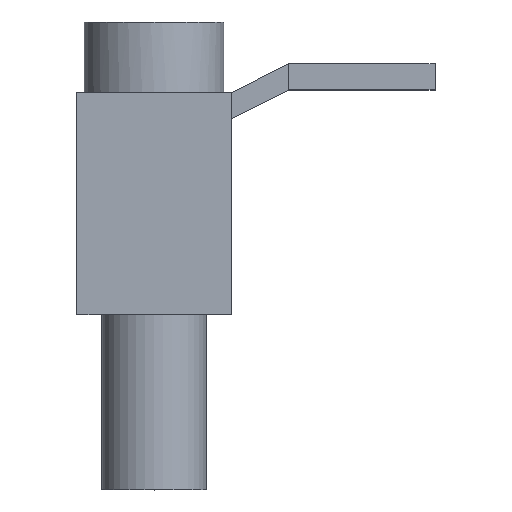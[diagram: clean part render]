
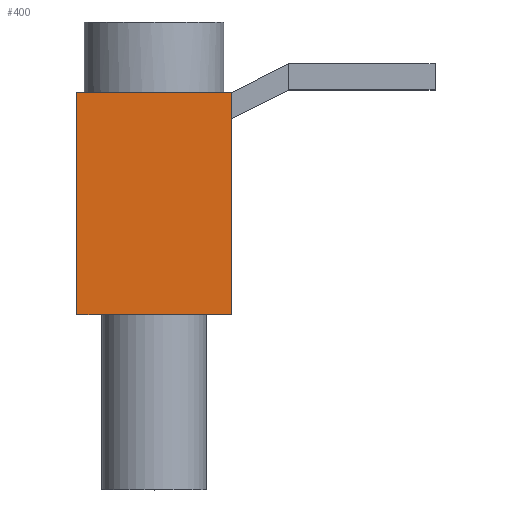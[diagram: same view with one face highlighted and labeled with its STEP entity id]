
A CAD part, top view. The second image highlights one B-rep face of the part: STEP entity #400.
In plain terms, the highlighted planar face has unit normal (0, 0, 1).
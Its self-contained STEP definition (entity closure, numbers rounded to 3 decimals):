
#10=CARTESIAN_POINT('',(0.,0.,6.4));
#20=DIRECTION('',(0.,0.,1.));
#30=DIRECTION('',(1.,0.,0.));
#40=AXIS2_PLACEMENT_3D('',#10,#20,#30);
#50=PLANE('',#40);
#60=CARTESIAN_POINT('',(17.162,0.,6.4));
#70=DIRECTION('',(0.,-1.,0.));
#80=VECTOR('',#70,1.);
#90=LINE('',#60,#80);
#100=CARTESIAN_POINT('',(17.162,-3.8,6.4));
#110=VERTEX_POINT('',#100);
#120=CARTESIAN_POINT('',(17.162,-12.3,6.4));
#130=VERTEX_POINT('',#120);
#140=EDGE_CURVE('',#110,#130,#90,.T.);
#150=ORIENTED_EDGE('',*,*,#140,.F.);
#160=CARTESIAN_POINT('',(11.262,-12.3,6.4));
#170=DIRECTION('',(1.,0.,0.));
#180=VECTOR('',#170,1.);
#190=LINE('',#160,#180);
#200=CARTESIAN_POINT('',(11.262,-12.3,6.4));
#210=VERTEX_POINT('',#200);
#220=EDGE_CURVE('',#210,#130,#190,.T.);
#230=ORIENTED_EDGE('',*,*,#220,.T.);
#240=CARTESIAN_POINT('',(11.262,-3.8,6.4));
#250=DIRECTION('',(0.,-1.,0.));
#260=VECTOR('',#250,1.);
#270=LINE('',#240,#260);
#280=CARTESIAN_POINT('',(11.262,-3.8,6.4));
#290=VERTEX_POINT('',#280);
#300=EDGE_CURVE('',#290,#210,#270,.T.);
#310=ORIENTED_EDGE('',*,*,#300,.T.);
#320=CARTESIAN_POINT('',(17.162,-3.8,6.4));
#330=DIRECTION('',(-1.,0.,0.));
#340=VECTOR('',#330,1.);
#350=LINE('',#320,#340);
#360=EDGE_CURVE('',#110,#290,#350,.T.);
#370=ORIENTED_EDGE('',*,*,#360,.T.);
#380=EDGE_LOOP('',(#370,#310,#230,#150));
#390=FACE_OUTER_BOUND('',#380,.T.);
#400=ADVANCED_FACE('',(#390),#50,.T.);
